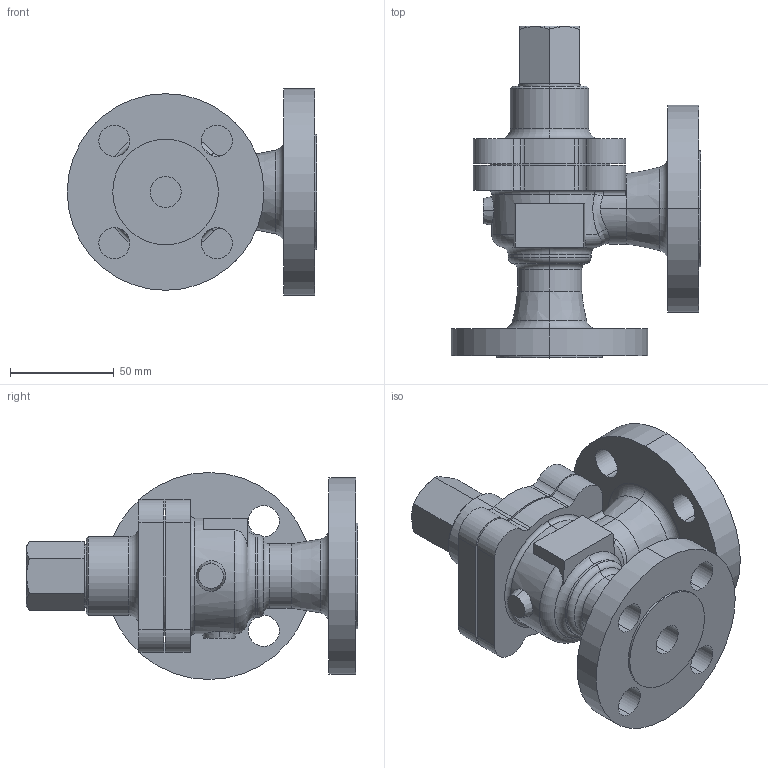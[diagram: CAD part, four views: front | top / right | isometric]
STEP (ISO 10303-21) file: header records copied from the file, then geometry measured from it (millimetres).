
FILE_DESCRIPTION (( 'STEP AP203' ), '1' );
FILE_NAME ('AL-31 15A.STEP', '2026-01-13T07:17:28', ( '' ), ( '' ), 'SwSTEP 2.0', 'SolidWorks 2024', '' );
FILE_SCHEMA (( 'CONFIG_CONTROL_DESIGN' ));
Length unit declared in the file: millimetre
Products named in the file (1): AL-31 15A
Bounding box: 120.5 x 160.3 x 100 mm (x, y, z)
Volume: 497673.9 mm3; surface area: 77396.2 mm2
Topology: 1 solids, 1 shells, 153 faces, 376 edges, 236 vertices
Faces by surface type: cylinder 76, plane 44, torus 16, cone 12, bspline 5
Entity records: 5381 total; most frequent: CARTESIAN_POINT 1548, DIRECTION 855, ORIENTED_EDGE 752, EDGE_CURVE 376, AXIS2_PLACEMENT_3D 359, VERTEX_POINT 236, CIRCLE 210, EDGE_LOOP 180
